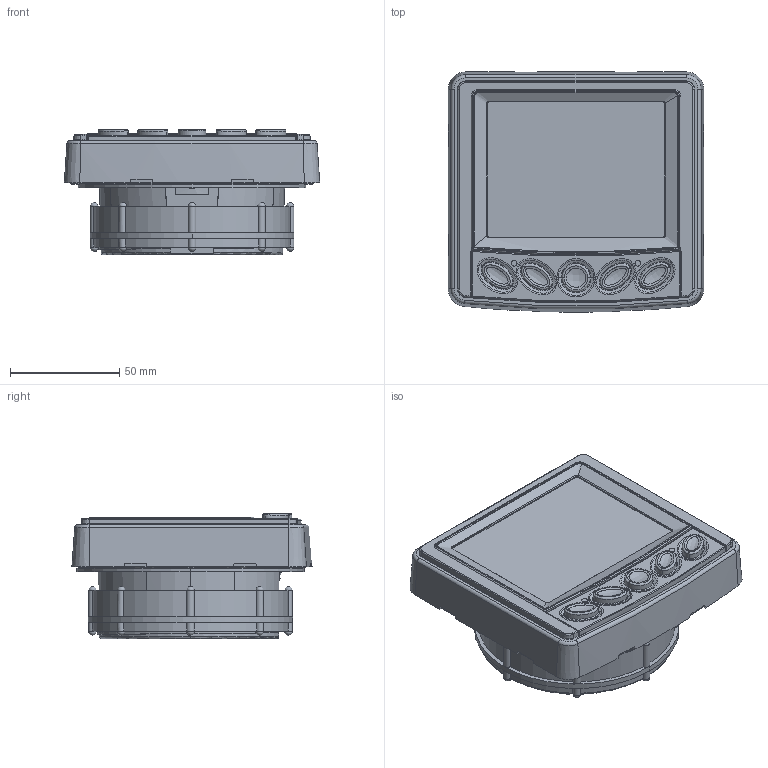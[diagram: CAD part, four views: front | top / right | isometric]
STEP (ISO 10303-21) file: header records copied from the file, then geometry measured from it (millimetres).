
FILE_DESCRIPTION (( 'STEP AP214' ), '1' );
FILE_NAME ('78020059.STEP', '2015-08-10T16:08:04', ( '' ), ( '' ), 'SwSTEP 2.0', 'SolidWorks 2012', '' );
FILE_SCHEMA (( 'AUTOMOTIVE_DESIGN' ));
Length unit declared in the file: inch
Products named in the file (1): 78020059
Bounding box: 116.84 x 109.8 x 57.32 mm (x, y, z)
Volume: 337919.1 mm3; surface area: 77969.5 mm2
Topology: 3 solids, 19 shells, 1206 faces, 3105 edges, 1972 vertices
Faces by surface type: plane 382, bspline 326, cylinder 262, torus 124, cone 89, sphere 23
Entity records: 70940 total; most frequent: CARTESIAN_POINT 44747, ORIENTED_EDGE 6096, DIRECTION 4583, EDGE_CURVE 3048, VERTEX_POINT 1940, AXIS2_PLACEMENT_3D 1717, EDGE_LOOP 1278, FACE_OUTER_BOUND 1206
